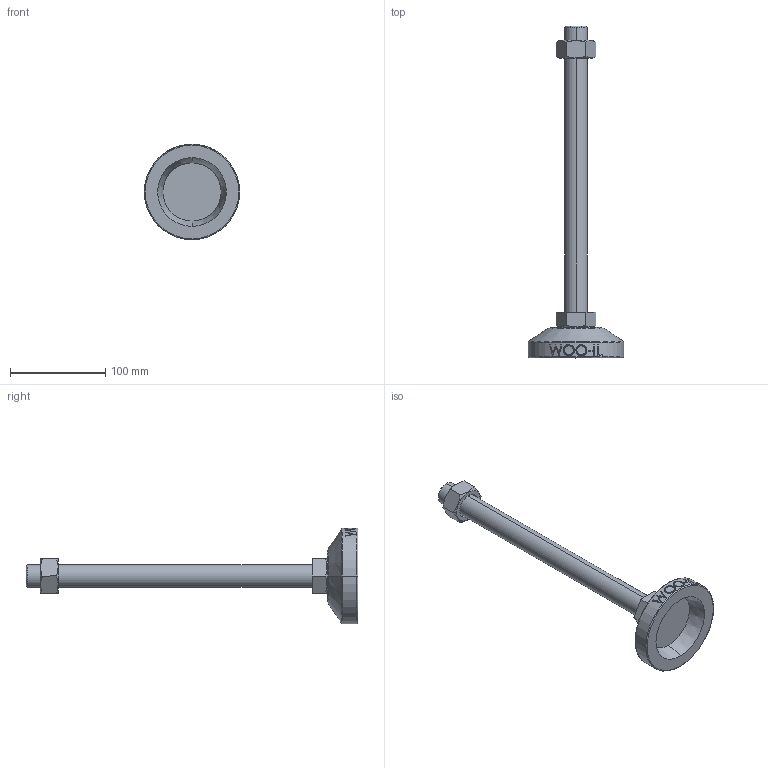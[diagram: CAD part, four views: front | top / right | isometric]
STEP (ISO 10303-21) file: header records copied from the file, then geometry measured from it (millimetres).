
FILE_DESCRIPTION (( 'STEP AP214' ), '1' );
FILE_NAME ('PAD-B100-M24-300.step', '2021-01-26T23:42:57', ( '' ), ( '' ), 'SwSTEP 2.0', 'SolidWorks 2019', '' );
FILE_SCHEMA (( 'AUTOMOTIVE_DESIGN' ));
Length unit declared in the file: millimetre
Products named in the file (2): PAD-B100-M24-300
Bounding box: 100 x 348 x 100 mm (x, y, z)
Volume: 314273 mm3; surface area: 56376.6 mm2
Topology: 3 solids, 3 shells, 100 faces, 231 edges, 148 vertices
Faces by surface type: plane 48, cylinder 16, cone 16, bspline 16, torus 4
Entity records: 4544 total; most frequent: CARTESIAN_POINT 2333, ORIENTED_EDGE 462, DIRECTION 403, EDGE_CURVE 231, AXIS2_PLACEMENT_3D 152, VERTEX_POINT 148, EDGE_LOOP 113, FACE_OUTER_BOUND 100
